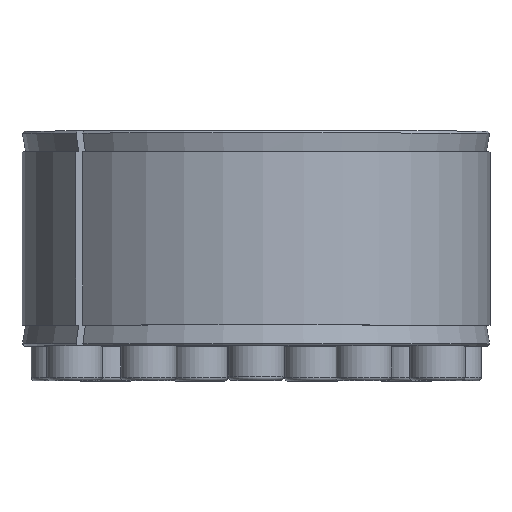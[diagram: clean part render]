
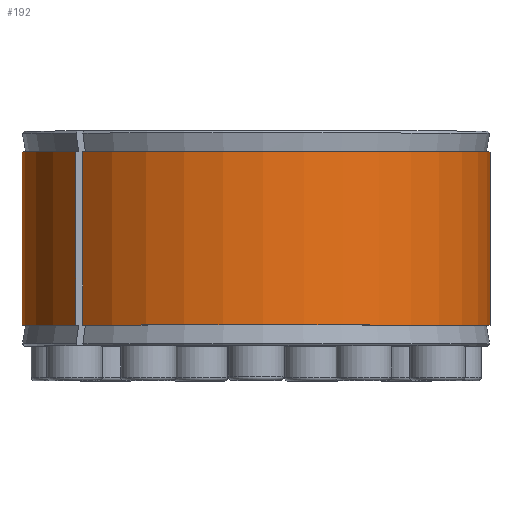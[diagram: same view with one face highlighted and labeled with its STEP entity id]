
A CAD part, top view. The second image highlights one B-rep face of the part: STEP entity #192.
In plain terms, the highlighted cylindrical face has radius 67.5 mm (diameter 135 mm), a partial arc.
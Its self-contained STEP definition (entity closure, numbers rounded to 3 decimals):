
#192 = ADVANCED_FACE( '', ( #448 ), #449, .T. );
#448 = FACE_OUTER_BOUND( '', #771, .T. );
#449 = CYLINDRICAL_SURFACE( '', #772, 67.5 );
#771 = EDGE_LOOP( '', ( #1352, #1353, #1354, #1355 ) );
#772 = AXIS2_PLACEMENT_3D( '', #1356, #1357, #1358 );
#1352 = ORIENTED_EDGE( '', *, *, #1786, .T. );
#1353 = ORIENTED_EDGE( '', *, *, #1853, .T. );
#1354 = ORIENTED_EDGE( '', *, *, #1792, .F. );
#1355 = ORIENTED_EDGE( '', *, *, #1695, .T. );
#1356 = CARTESIAN_POINT( '', ( 0., -60., 0. ) );
#1357 = DIRECTION( '', ( 0., 1., 0. ) );
#1358 = DIRECTION( '', ( 0., 0., -1. ) );
#1695 = EDGE_CURVE( '', #2029, #2027, #2030, .F. );
#1786 = EDGE_CURVE( '', #2027, #2178, #2180, .T. );
#1792 = EDGE_CURVE( '', #2029, #2188, #2189, .T. );
#1853 = EDGE_CURVE( '', #2178, #2188, #2287, .T. );
#2027 = VERTEX_POINT( '', #2585 );
#2029 = VERTEX_POINT( '', #2588 );
#2030 = LINE( '', #2589, #2590 );
#2178 = VERTEX_POINT( '', #2924 );
#2180 = CIRCLE( '', #2927, 67.5 );
#2188 = VERTEX_POINT( '', #2938 );
#2189 = CIRCLE( '', #2939, 67.5 );
#2287 = LINE( '', #3061, #3062 );
#2585 = CARTESIAN_POINT( '', ( -51.983, 56., 43.059 ) );
#2588 = CARTESIAN_POINT( '', ( -51.983, 6., 43.059 ) );
#2589 = CARTESIAN_POINT( '', ( -51.983, -60., 43.059 ) );
#2590 = VECTOR( '', #3234, 1000. );
#2924 = CARTESIAN_POINT( '', ( -50.018, 56., 45.326 ) );
#2927 = AXIS2_PLACEMENT_3D( '', #3378, #3379, #3380 );
#2938 = CARTESIAN_POINT( '', ( -50.018, 6., 45.326 ) );
#2939 = AXIS2_PLACEMENT_3D( '', #3387, #3388, #3389 );
#3061 = CARTESIAN_POINT( '', ( -50.018, -60., 45.326 ) );
#3062 = VECTOR( '', #3498, 1000. );
#3234 = DIRECTION( '', ( 0., -1., 0. ) );
#3378 = CARTESIAN_POINT( '', ( 0., 56., 0. ) );
#3379 = DIRECTION( '', ( 0., -1., 0. ) );
#3380 = DIRECTION( '', ( 0., 0., -1. ) );
#3387 = CARTESIAN_POINT( '', ( 0., 6., 0. ) );
#3388 = DIRECTION( '', ( 0., -1., 0. ) );
#3389 = DIRECTION( '', ( 0., 0., -1. ) );
#3498 = DIRECTION( '', ( 0., -1., 0. ) );
